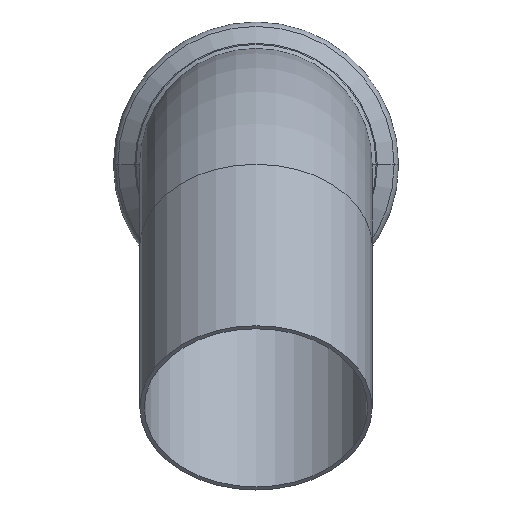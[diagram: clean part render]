
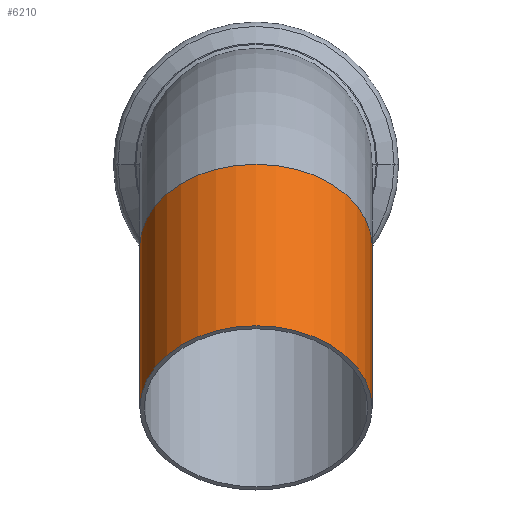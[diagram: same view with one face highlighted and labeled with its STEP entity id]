
A CAD part, left-side view. The second image highlights one B-rep face of the part: STEP entity #6210.
In plain terms, the highlighted cylindrical face has radius 54 mm (diameter 108 mm), a partial arc.
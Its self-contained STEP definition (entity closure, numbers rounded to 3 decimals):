
#3350=CARTESIAN_POINT('',(-165.137,0.,-113.137));
#3360=DIRECTION('',(-0.707,0.,-0.707));
#3370=DIRECTION('',(0.,-1.,0.));
#3380=AXIS2_PLACEMENT_3D('',#3350,#3360,#3370);
#3390=CIRCLE('',#3380,54.);
#3400=CARTESIAN_POINT('',(-165.137,-54.,-113.137));
#3410=VERTEX_POINT('',#3400);
#3420=CARTESIAN_POINT('',(-165.137,54.,-113.137));
#3430=VERTEX_POINT('',#3420);
#3440=EDGE_CURVE('',#3410,#3430,#3390,.T.);
#4200=CARTESIAN_POINT('',(-90.076,-54.,-38.076));
#4210=VERTEX_POINT('',#4200);
#4300=CARTESIAN_POINT('',(-90.076,54.,-38.076));
#4310=VERTEX_POINT('',#4300);
#4340=CARTESIAN_POINT('',(-90.076,0.,-38.076));
#4350=DIRECTION('',(-0.707,0.,-0.707));
#4360=DIRECTION('',(0.,-1.,0.));
#4370=AXIS2_PLACEMENT_3D('',#4340,#4350,#4360);
#4380=CIRCLE('',#4370,54.);
#4950=CARTESIAN_POINT('',(-90.076,0.,-38.076));
#4960=DIRECTION('',(-0.707,0.,-0.707));
#4970=DIRECTION('',(0.,-1.,0.));
#4980=AXIS2_PLACEMENT_3D('',#4950,#4960,#4970);
#4990=CYLINDRICAL_SURFACE('',#4980,54.);
#5000=CARTESIAN_POINT('',(-90.076,-54.,-38.076));
#5010=DIRECTION('',(-0.707,0.,-0.707));
#5020=VECTOR('',#5010,1.);
#5030=LINE('',#5000,#5020);
#5040=EDGE_CURVE('',#4210,#3410,#5030,.T.);
#5070=CARTESIAN_POINT('',(-90.076,54.,-38.076));
#5080=DIRECTION('',(-0.707,0.,-0.707));
#5090=VECTOR('',#5080,1.);
#5100=LINE('',#5070,#5090);
#5110=EDGE_CURVE('',#4310,#3430,#5100,.T.);
#5570=EDGE_CURVE('',#4210,#4310,#4380,.T.);
#6150=ORIENTED_EDGE('',*,*,#3440,.F.);
#6160=ORIENTED_EDGE('',*,*,#5110,.T.);
#6170=ORIENTED_EDGE('',*,*,#5570,.T.);
#6180=ORIENTED_EDGE('',*,*,#5040,.F.);
#6190=EDGE_LOOP('',(#6180,#6170,#6160,#6150));
#6200=FACE_OUTER_BOUND('',#6190,.T.);
#6210=ADVANCED_FACE('',(#6200),#4990,.T.);
